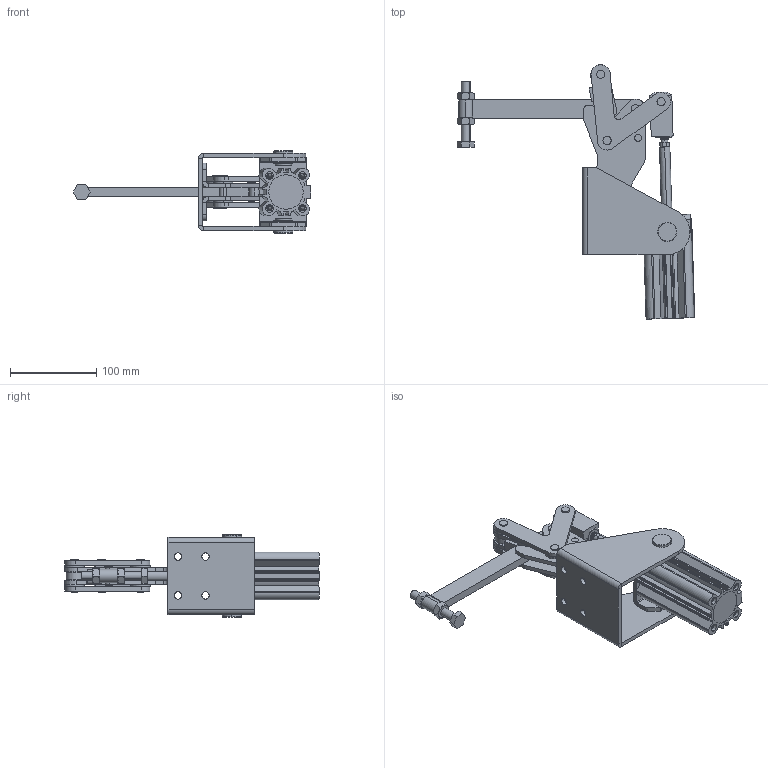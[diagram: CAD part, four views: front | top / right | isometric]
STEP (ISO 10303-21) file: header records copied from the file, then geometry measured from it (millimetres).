
FILE_DESCRIPTION (( 'STEP AP203' ), '1' );
FILE_NAME ('KF-411 DS P.STEP', '2016-12-15T13:50:37', ( 'Ricardo' ), ( '' ), 'SwSTEP 2.0', 'SolidWorks 2015', '' );
FILE_SCHEMA (( 'CONFIG_CONTROL_DESIGN' ));
Length unit declared in the file: millimetre
Products named in the file (25): 12.50004; 15.20012; 02.12024_Esquerda; PSB-M10; 15.10061; 04.10003A_Direita; 1 PC 21287; 15.10062; 04.10003B_Direita; 2 PC 21287; 16.20071; 06.50046; 16.20072; 3 PC 21287; 501-019; 05.20006; 2800400700CP_avan㌢do; 03.15005; 06.50009; KF-411 DS P; 20.20005; 01.10093; 11.50003; 17.50009; 02.12024_Direita
Assembly tree (34 placements, depth 3):
  KF-411 DS P
    02.12024_Direita
    02.12024_Esquerda
    04.10003A_Direita
    04.10003B_Direita
    16.20072
    05.20006
    06.50009  x2
    01.10093  x2
    17.50009  x4
    15.20012
    15.10061
    15.10062
    16.20071  x2
    06.50046  x3
    501-019  x2
    03.15005
    PSB-M10
      20.20005
      11.50003  x2
      12.50004
    2800400700CP_avan㌢do
      1 PC 21287
      2 PC 21287
      3 PC 21287
Bounding box: 275.4 x 294.85 x 95.5 mm (x, y, z)
Volume: 547512.8 mm3; surface area: 248399.7 mm2
Topology: 32 solids, 32 shells, 744 faces, 1796 edges, 1140 vertices
Faces by surface type: cylinder 349, plane 291, cone 104
Entity records: 21221 total; most frequent: DIRECTION 3364, CARTESIAN_POINT 3290, ORIENTED_EDGE 2960, EDGE_CURVE 1480, AXIS2_PLACEMENT_3D 1283, VERTEX_POINT 945, LINE 798, VECTOR 798
